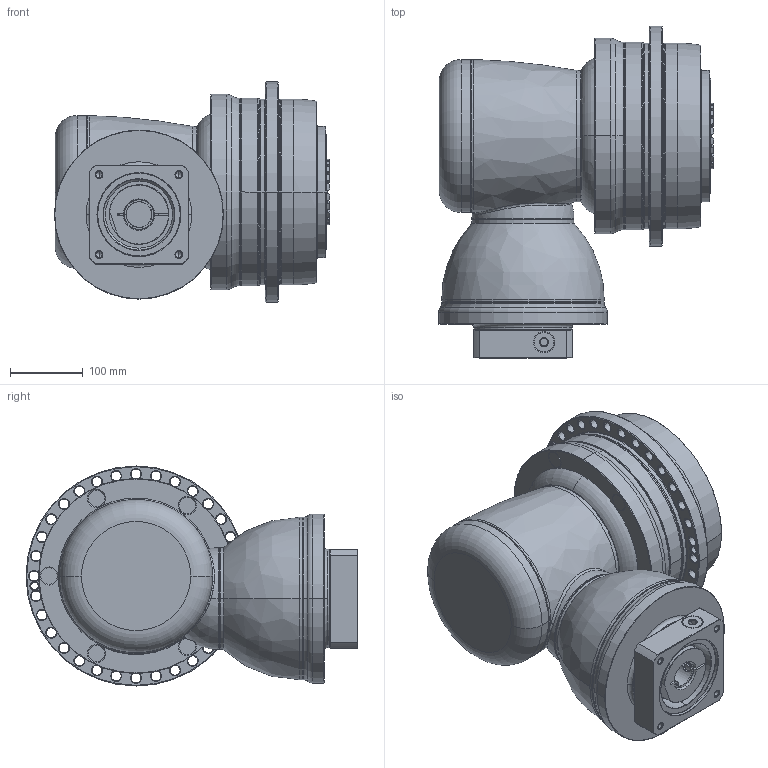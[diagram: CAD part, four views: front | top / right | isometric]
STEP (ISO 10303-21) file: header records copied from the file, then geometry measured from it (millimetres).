
FILE_DESCRIPTION((''),'2;1');
FILE_NAME('APCK255_2ST_35-P0409800201_ASM','2018-05-09T',('d01226'),(''),'PRO/ENGINEER BY PARAMETRIC TECHNOLOGY CORPORATION, 2008410','PRO/ENGINEER BY PARAMETRIC TECHNOLOGY CORPORATION, 2008410','');
FILE_SCHEMA(('CONFIG_CONTROL_DESIGN'));
Length unit declared in the file: millimetre
Products named in the file (13): P1008600002; P1802710001; P0278701003; P0359770103; P1211700001; P1315600001; P1007601001; P1318610101; P0409800201; P0503800012; P0912601001; 21711422019; APCK255_2ST_35-P0409800201_ASM
Assembly tree (12 placements, depth 2):
  APCK255_2ST_35-P0409800201_ASM
    P1008600002
    P1802710001
    P0278701003
    P0359770103
    P1211700001
    P1315600001
    P1007601001
    P1318610101
    P0409800201
    P0503800012
    P0912601001
    21711422019
Bounding box: 377.6 x 455.5 x 302 mm (x, y, z)
Volume: 20955661.6 mm3; surface area: 1327575 mm2
Topology: 13 solids, 25 shells, 863 faces, 2070 edges, 1267 vertices
Faces by surface type: cone 280, cylinder 271, plane 154, torus 125, bspline 31, sphere 2
Entity records: 32422 total; most frequent: CARTESIAN_POINT 11704, DIRECTION 4667, ORIENTED_EDGE 4062, EDGE_CURVE 2056, AXIS2_PLACEMENT_3D 2045, VERTEX_POINT 1267, CIRCLE 1176, EDGE_LOOP 995
